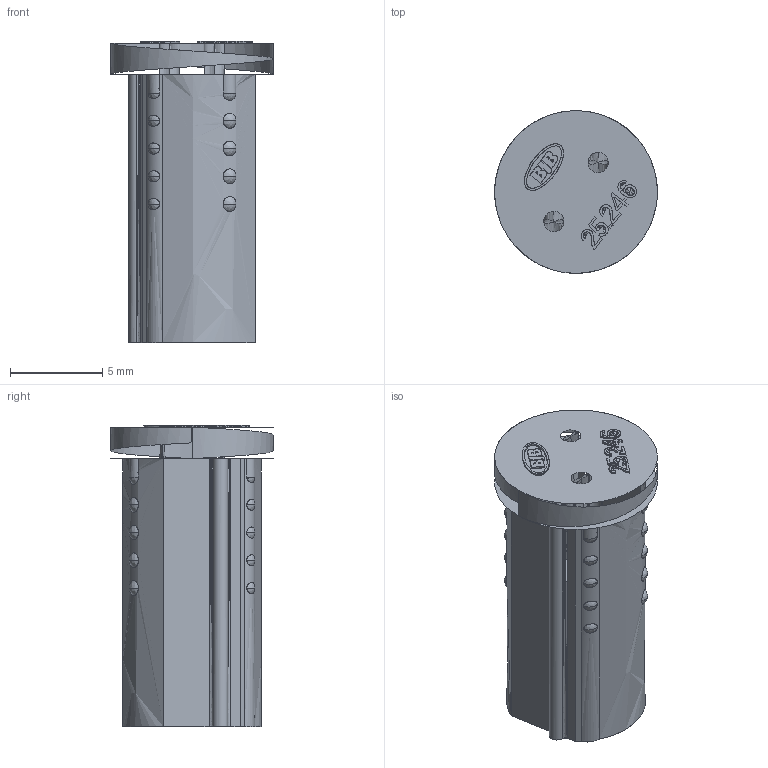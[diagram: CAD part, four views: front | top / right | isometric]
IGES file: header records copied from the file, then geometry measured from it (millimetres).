
Global section: file name: C:\Programme\core_technologie\in/00YY105Y0E.igs; native system: CT CoreTechnologie 3D Evolution; preprocessor: 2006; author: assmuth; date: 100929.095320; units: millimetre
Bounding box: 8.8 x 8.8 x 16.3 mm (x, y, z)
Surface area: 671.7 mm2 (no closed solid volume)
Topology: 0 solids, 0 shells, 201 faces, 1018 edges, 956 vertices
Faces by surface type: bspline 201
